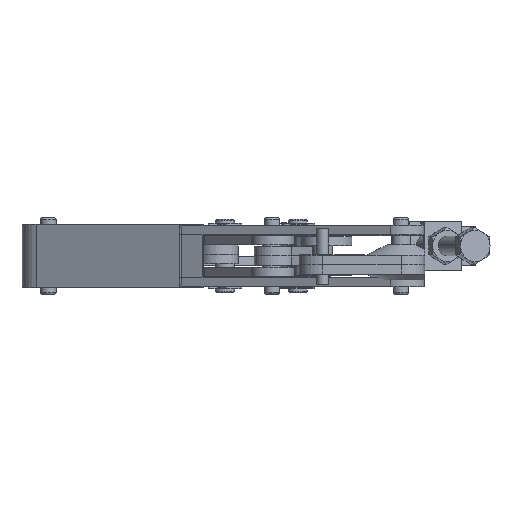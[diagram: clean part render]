
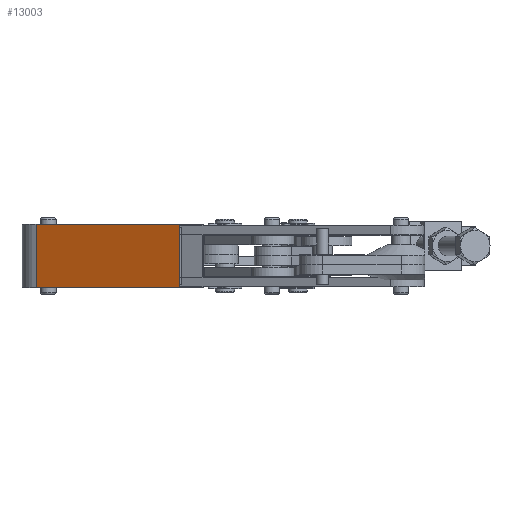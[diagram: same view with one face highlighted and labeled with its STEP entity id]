
A CAD part, front view. The second image highlights one B-rep face of the part: STEP entity #13003.
In plain terms, the highlighted planar face has unit normal (-0.46, -0.888, 0).
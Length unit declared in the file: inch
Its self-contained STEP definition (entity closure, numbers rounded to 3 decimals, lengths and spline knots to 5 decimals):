
#12945=CARTESIAN_POINT('',(23.05531,10.68332,-0.344));
#12946=VERTEX_POINT('',#12945);
#12954=CARTESIAN_POINT('',(23.05531,10.68332,0.666));
#12955=VERTEX_POINT('',#12954);
#12956=CARTESIAN_POINT('',(23.05531,10.68332,0.666));
#12957=DIRECTION('',(0.0,0.0,-1.0));
#12958=VECTOR('',#12957,1.01);
#12959=LINE('',#12956,#12958);
#12960=EDGE_CURVE('',#12955,#12946,#12959,.T.);
#12973=CARTESIAN_POINT('',(23.05531,10.68332,0.616));
#12974=DIRECTION('',(-0.46,-0.888,0.));
#12975=DIRECTION('',(0.0,0.0,1.0));
#12976=AXIS2_PLACEMENT_3D('',#12973,#12974,#12975);
#12977=PLANE('',#12976);
#12978=CARTESIAN_POINT('',(25.33667,9.5,-0.344));
#12979=VERTEX_POINT('',#12978);
#12980=CARTESIAN_POINT('',(23.05531,10.68332,-0.344));
#12981=DIRECTION('',(0.888,-0.46,0.));
#12982=VECTOR('',#12981,2.56999);
#12983=LINE('',#12980,#12982);
#12984=EDGE_CURVE('',#12946,#12979,#12983,.T.);
#12985=ORIENTED_EDGE('',*,*,#12984,.T.);
#12986=CARTESIAN_POINT('',(25.33667,9.5,0.666));
#12987=VERTEX_POINT('',#12986);
#12988=CARTESIAN_POINT('',(25.33667,9.5,-0.344));
#12989=DIRECTION('',(0.0,0.0,1.0));
#12990=VECTOR('',#12989,1.01);
#12991=LINE('',#12988,#12990);
#12992=EDGE_CURVE('',#12987,#12979,#12991,.F.);
#12993=ORIENTED_EDGE('',*,*,#12992,.F.);
#12994=CARTESIAN_POINT('',(23.05531,10.68332,0.666));
#12995=DIRECTION('',(0.888,-0.46,0.));
#12996=VECTOR('',#12995,2.56999);
#12997=LINE('',#12994,#12996);
#12998=EDGE_CURVE('',#12987,#12955,#12997,.F.);
#12999=ORIENTED_EDGE('',*,*,#12998,.T.);
#13000=ORIENTED_EDGE('',*,*,#12960,.T.);
#13001=EDGE_LOOP('',(#12985,#12993,#12999,#13000));
#13002=FACE_OUTER_BOUND('',#13001,.T.);
#13003=ADVANCED_FACE('',(#13002),#12977,.T.);
